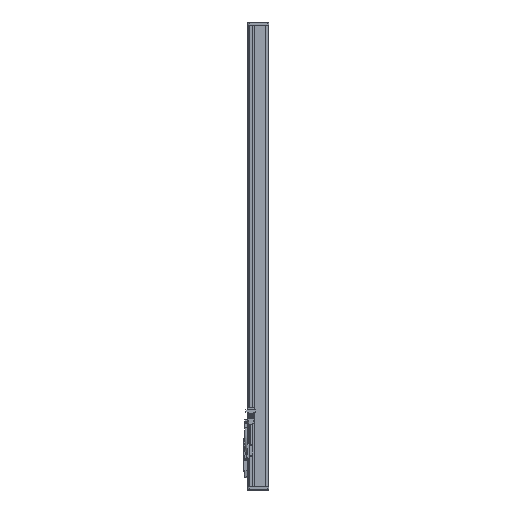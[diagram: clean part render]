
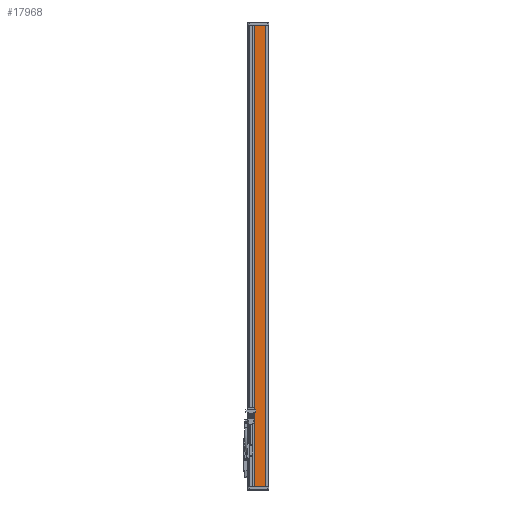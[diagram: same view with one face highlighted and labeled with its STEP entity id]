
A CAD part, left-side view. The second image highlights one B-rep face of the part: STEP entity #17968.
In plain terms, the highlighted planar face has unit normal (-1, 0, 0).
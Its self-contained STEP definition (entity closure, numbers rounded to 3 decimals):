
#144 = PLANE('',#145);
#145 = AXIS2_PLACEMENT_3D('',#146,#147,#148);
#146 = CARTESIAN_POINT('',(-36.5,59.6,1390.));
#147 = DIRECTION('',(0.,0.,1.));
#148 = DIRECTION('',(1.,0.,-0.));
#809 = PLANE('',#810);
#810 = AXIS2_PLACEMENT_3D('',#811,#812,#813);
#811 = CARTESIAN_POINT('',(-36.5,59.6,0.));
#812 = DIRECTION('',(0.,0.,1.));
#813 = DIRECTION('',(1.,0.,-0.));
#11483 = VERTEX_POINT('',#11484);
#11484 = CARTESIAN_POINT('',(-40.5,43.6,1390.));
#11498 = PLANE('',#11499);
#11499 = AXIS2_PLACEMENT_3D('',#11500,#11501,#11502);
#11500 = CARTESIAN_POINT('',(-40.,43.6,1390.));
#11501 = DIRECTION('',(0.,1.,0.));
#11502 = DIRECTION('',(0.,-0.,1.));
#11510 = EDGE_CURVE('',#11483,#11511,#11513,.T.);
#11511 = VERTEX_POINT('',#11512);
#11512 = CARTESIAN_POINT('',(-40.5,11.,1390.));
#11513 = SURFACE_CURVE('',#11514,(#11518,#11525),.PCURVE_S1.);
#11514 = LINE('',#11515,#11516);
#11515 = CARTESIAN_POINT('',(-40.5,19.,1390.));
#11516 = VECTOR('',#11517,1.);
#11517 = DIRECTION('',(0.,-1.,0.));
#11518 = PCURVE('',#144,#11519);
#11519 = DEFINITIONAL_REPRESENTATION('',(#11520),#11524);
#11520 = LINE('',#11521,#11522);
#11521 = CARTESIAN_POINT('',(-4.,-40.6));
#11522 = VECTOR('',#11523,1.);
#11523 = DIRECTION('',(0.,-1.));
#11524 = ( GEOMETRIC_REPRESENTATION_CONTEXT(2) 
PARAMETRIC_REPRESENTATION_CONTEXT() REPRESENTATION_CONTEXT('2D SPACE',''
  ) );
#11525 = PCURVE('',#11526,#11531);
#11526 = PLANE('',#11527);
#11527 = AXIS2_PLACEMENT_3D('',#11528,#11529,#11530);
#11528 = CARTESIAN_POINT('',(-40.5,19.,1390.));
#11529 = DIRECTION('',(1.,0.,-0.));
#11530 = DIRECTION('',(-0.,0.,-1.));
#11531 = DEFINITIONAL_REPRESENTATION('',(#11532),#11536);
#11532 = LINE('',#11533,#11534);
#11533 = CARTESIAN_POINT('',(0.,0.));
#11534 = VECTOR('',#11535,1.);
#11535 = DIRECTION('',(-0.,-1.));
#11536 = ( GEOMETRIC_REPRESENTATION_CONTEXT(2) 
PARAMETRIC_REPRESENTATION_CONTEXT() REPRESENTATION_CONTEXT('2D SPACE',''
  ) );
#11554 = PLANE('',#11555);
#11555 = AXIS2_PLACEMENT_3D('',#11556,#11557,#11558);
#11556 = CARTESIAN_POINT('',(-41.,10.5,1390.));
#11557 = DIRECTION('',(0.707,-0.707,0.));
#11558 = DIRECTION('',(0.707,0.707,0.));
#12900 = VERTEX_POINT('',#12901);
#12901 = CARTESIAN_POINT('',(-40.5,11.,0.));
#12922 = EDGE_CURVE('',#12923,#12900,#12925,.T.);
#12923 = VERTEX_POINT('',#12924);
#12924 = CARTESIAN_POINT('',(-40.5,43.6,0.));
#12925 = SURFACE_CURVE('',#12926,(#12930,#12937),.PCURVE_S1.);
#12926 = LINE('',#12927,#12928);
#12927 = CARTESIAN_POINT('',(-40.5,19.,0.));
#12928 = VECTOR('',#12929,1.);
#12929 = DIRECTION('',(0.,-1.,0.));
#12930 = PCURVE('',#809,#12931);
#12931 = DEFINITIONAL_REPRESENTATION('',(#12932),#12936);
#12932 = LINE('',#12933,#12934);
#12933 = CARTESIAN_POINT('',(-4.,-40.6));
#12934 = VECTOR('',#12935,1.);
#12935 = DIRECTION('',(0.,-1.));
#12936 = ( GEOMETRIC_REPRESENTATION_CONTEXT(2) 
PARAMETRIC_REPRESENTATION_CONTEXT() REPRESENTATION_CONTEXT('2D SPACE',''
  ) );
#12937 = PCURVE('',#11526,#12938);
#12938 = DEFINITIONAL_REPRESENTATION('',(#12939),#12943);
#12939 = LINE('',#12940,#12941);
#12940 = CARTESIAN_POINT('',(1390.,0.));
#12941 = VECTOR('',#12942,1.);
#12942 = DIRECTION('',(-0.,-1.));
#12943 = ( GEOMETRIC_REPRESENTATION_CONTEXT(2) 
PARAMETRIC_REPRESENTATION_CONTEXT() REPRESENTATION_CONTEXT('2D SPACE',''
  ) );
#15544 = EDGE_CURVE('',#11511,#12900,#15545,.T.);
#15545 = SURFACE_CURVE('',#15546,(#15550,#15557),.PCURVE_S1.);
#15546 = LINE('',#15547,#15548);
#15547 = CARTESIAN_POINT('',(-40.5,11.,1390.));
#15548 = VECTOR('',#15549,1.);
#15549 = DIRECTION('',(-0.,-0.,-1.));
#15550 = PCURVE('',#11554,#15551);
#15551 = DEFINITIONAL_REPRESENTATION('',(#15552),#15556);
#15552 = LINE('',#15553,#15554);
#15553 = CARTESIAN_POINT('',(0.707,0.));
#15554 = VECTOR('',#15555,1.);
#15555 = DIRECTION('',(0.,-1.));
#15556 = ( GEOMETRIC_REPRESENTATION_CONTEXT(2) 
PARAMETRIC_REPRESENTATION_CONTEXT() REPRESENTATION_CONTEXT('2D SPACE',''
  ) );
#15557 = PCURVE('',#11526,#15558);
#15558 = DEFINITIONAL_REPRESENTATION('',(#15559),#15563);
#15559 = LINE('',#15560,#15561);
#15560 = CARTESIAN_POINT('',(-0.,-8.));
#15561 = VECTOR('',#15562,1.);
#15562 = DIRECTION('',(1.,-0.));
#15563 = ( GEOMETRIC_REPRESENTATION_CONTEXT(2) 
PARAMETRIC_REPRESENTATION_CONTEXT() REPRESENTATION_CONTEXT('2D SPACE',''
  ) );
#17968 = ADVANCED_FACE('',(#17969),#11526,.F.);
#17969 = FACE_BOUND('',#17970,.T.);
#17970 = EDGE_LOOP('',(#17971,#17972,#17973,#17974));
#17971 = ORIENTED_EDGE('',*,*,#12922,.T.);
#17972 = ORIENTED_EDGE('',*,*,#15544,.F.);
#17973 = ORIENTED_EDGE('',*,*,#11510,.F.);
#17974 = ORIENTED_EDGE('',*,*,#17975,.F.);
#17975 = EDGE_CURVE('',#12923,#11483,#17976,.T.);
#17976 = SURFACE_CURVE('',#17977,(#17981,#17988),.PCURVE_S1.);
#17977 = LINE('',#17978,#17979);
#17978 = CARTESIAN_POINT('',(-40.5,43.6,1390.));
#17979 = VECTOR('',#17980,1.);
#17980 = DIRECTION('',(0.,0.,1.));
#17981 = PCURVE('',#11526,#17982);
#17982 = DEFINITIONAL_REPRESENTATION('',(#17983),#17987);
#17983 = LINE('',#17984,#17985);
#17984 = CARTESIAN_POINT('',(0.,24.6));
#17985 = VECTOR('',#17986,1.);
#17986 = DIRECTION('',(-1.,0.));
#17987 = ( GEOMETRIC_REPRESENTATION_CONTEXT(2) 
PARAMETRIC_REPRESENTATION_CONTEXT() REPRESENTATION_CONTEXT('2D SPACE',''
  ) );
#17988 = PCURVE('',#11498,#17989);
#17989 = DEFINITIONAL_REPRESENTATION('',(#17990),#17994);
#17990 = LINE('',#17991,#17992);
#17991 = CARTESIAN_POINT('',(0.,-0.5));
#17992 = VECTOR('',#17993,1.);
#17993 = DIRECTION('',(1.,0.));
#17994 = ( GEOMETRIC_REPRESENTATION_CONTEXT(2) 
PARAMETRIC_REPRESENTATION_CONTEXT() REPRESENTATION_CONTEXT('2D SPACE',''
  ) );
